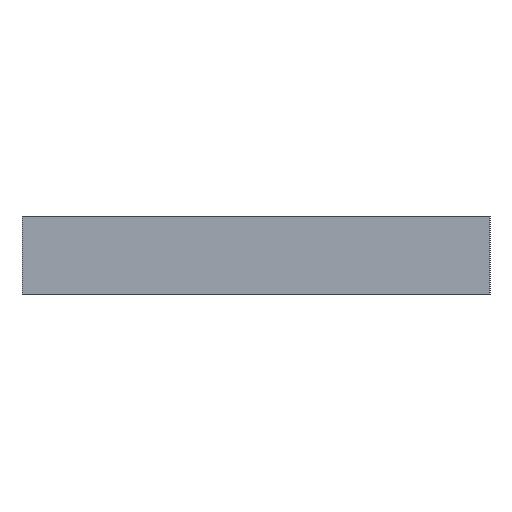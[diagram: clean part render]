
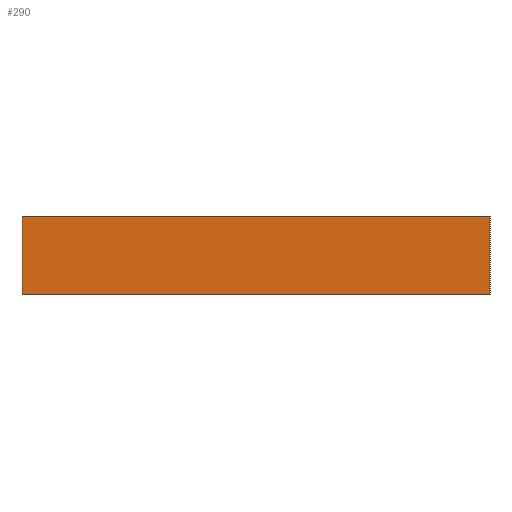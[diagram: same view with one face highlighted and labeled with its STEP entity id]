
A CAD part, left-side view. The second image highlights one B-rep face of the part: STEP entity #290.
In plain terms, the highlighted planar face has unit normal (-1, 0, 0).
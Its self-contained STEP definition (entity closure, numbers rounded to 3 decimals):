
#17 = ORIENTED_EDGE ( 'NONE', *, *, #365, .T. ) ;
#62 = VERTEX_POINT ( 'NONE', #831 ) ;
#64 = VERTEX_POINT ( 'NONE', #839 ) ;
#125 = LINE ( 'NONE', #126, #127 ) ;
#126 = CARTESIAN_POINT ( 'NONE',  ( -50., 30., -10. ) ) ;
#127 = VECTOR ( 'NONE', #128, 1000. ) ;
#128 = DIRECTION ( 'NONE',  ( 0., -1., 0. ) ) ;
#205 = EDGE_LOOP ( 'NONE', ( #776, #385, #17, #322 ) ) ;
#290 = ADVANCED_FACE ( 'NONE', ( #763 ), #764, .T. ) ;
#322 = ORIENTED_EDGE ( 'NONE', *, *, #356, .T. ) ;
#356 = EDGE_CURVE ( 'NONE', #62, #64, #993, .T. ) ;
#357 = EDGE_CURVE ( 'NONE', #395, #425, #1002, .T. ) ;
#365 = EDGE_CURVE ( 'NONE', #395, #62, #125, .T. ) ;
#385 = ORIENTED_EDGE ( 'NONE', *, *, #357, .F. ) ;
#395 = VERTEX_POINT ( 'NONE', #583 ) ;
#425 = VERTEX_POINT ( 'NONE', #830 ) ;
#525 = EDGE_CURVE ( 'NONE', #425, #64, #931, .T. ) ;
#583 = CARTESIAN_POINT ( 'NONE',  ( -50., 30., -10. ) ) ;
#763 = FACE_OUTER_BOUND ( 'NONE', #205, .T. ) ;
#764 = PLANE ( 'NONE',  #765 ) ;
#765 = AXIS2_PLACEMENT_3D ( 'NONE', #766, #767, #768 ) ;
#766 = CARTESIAN_POINT ( 'NONE',  ( -50., 30., -10. ) ) ;
#767 = DIRECTION ( 'NONE',  ( -1., 0., 0. ) ) ;
#768 = DIRECTION ( 'NONE',  ( 0., 0., 1. ) ) ;
#776 = ORIENTED_EDGE ( 'NONE', *, *, #525, .F. ) ;
#830 = CARTESIAN_POINT ( 'NONE',  ( -50., 30., 0. ) ) ;
#831 = CARTESIAN_POINT ( 'NONE',  ( -50., -30., -10. ) ) ;
#839 = CARTESIAN_POINT ( 'NONE',  ( -50., -30., 0. ) ) ;
#931 = LINE ( 'NONE', #932, #933 ) ;
#932 = CARTESIAN_POINT ( 'NONE',  ( -50., 30., 0. ) ) ;
#933 = VECTOR ( 'NONE', #934, 1000. ) ;
#934 = DIRECTION ( 'NONE',  ( 0., -1., 0. ) ) ;
#993 = LINE ( 'NONE', #994, #995 ) ;
#994 = CARTESIAN_POINT ( 'NONE',  ( -50., -30., -10. ) ) ;
#995 = VECTOR ( 'NONE', #996, 1000. ) ;
#996 = DIRECTION ( 'NONE',  ( 0., 0., 1. ) ) ;
#1002 = LINE ( 'NONE', #1003, #1004 ) ;
#1003 = CARTESIAN_POINT ( 'NONE',  ( -50., 30., -10. ) ) ;
#1004 = VECTOR ( 'NONE', #1005, 1000. ) ;
#1005 = DIRECTION ( 'NONE',  ( 0., 0., 1. ) ) ;
